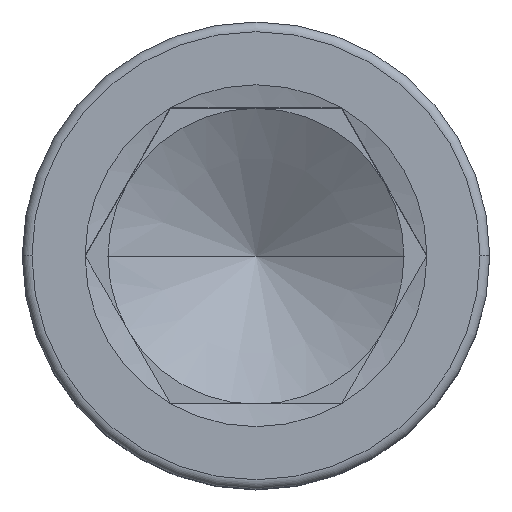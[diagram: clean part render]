
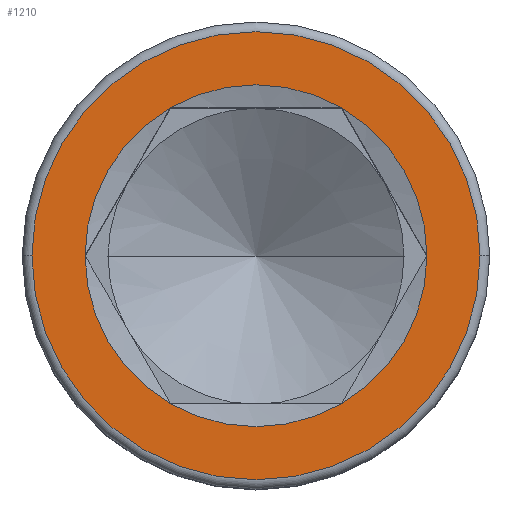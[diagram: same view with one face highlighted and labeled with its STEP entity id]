
A CAD part, top view. The second image highlights one B-rep face of the part: STEP entity #1210.
In plain terms, the highlighted planar face has unit normal (0, 0, 1).
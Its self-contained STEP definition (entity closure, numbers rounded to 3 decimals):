
#41 = CARTESIAN_POINT ( 'NONE',  ( 0., 0., 20. ) ) ;
#48 = VERTEX_POINT ( 'NONE', #963 ) ;
#53 = DIRECTION ( 'NONE',  ( 1., 0., 0. ) ) ;
#78 = VERTEX_POINT ( 'NONE', #800 ) ;
#87 = VERTEX_POINT ( 'NONE', #471 ) ;
#110 = CARTESIAN_POINT ( 'NONE',  ( 0., 0., 20. ) ) ;
#120 = AXIS2_PLACEMENT_3D ( 'NONE', #937, #773, #306 ) ;
#129 = DIRECTION ( 'NONE',  ( 1., 0., 0. ) ) ;
#165 = EDGE_CURVE ( 'NONE', #87, #477, #434, .T. ) ;
#167 = CARTESIAN_POINT ( 'NONE',  ( -14.38, 0., 20. ) ) ;
#261 = ORIENTED_EDGE ( 'NONE', *, *, #748, .F. ) ;
#306 = DIRECTION ( 'NONE',  ( 1., 0., 0. ) ) ;
#314 = ORIENTED_EDGE ( 'NONE', *, *, #1593, .F. ) ;
#336 = ORIENTED_EDGE ( 'NONE', *, *, #165, .F. ) ;
#343 = EDGE_CURVE ( 'NONE', #1311, #78, #1217, .T. ) ;
#355 = DIRECTION ( 'NONE',  ( 1., 0., 0. ) ) ;
#388 = CIRCLE ( 'NONE', #1515, 14.38 ) ;
#434 = CIRCLE ( 'NONE', #731, 10.97 ) ;
#444 = AXIS2_PLACEMENT_3D ( 'NONE', #1072, #927, #459 ) ;
#459 = DIRECTION ( 'NONE',  ( 1., 0., 0. ) ) ;
#471 = CARTESIAN_POINT ( 'NONE',  ( -10.97, 0., 20. ) ) ;
#477 = VERTEX_POINT ( 'NONE', #1372 ) ;
#489 = EDGE_LOOP ( 'NONE', ( #1074, #314, #261, #336, #943, #907 ) ) ;
#508 = CARTESIAN_POINT ( 'NONE',  ( 0., 0., 20. ) ) ;
#528 = DIRECTION ( 'NONE',  ( 0., 0., 1. ) ) ;
#558 = ORIENTED_EDGE ( 'NONE', *, *, #1272, .T. ) ;
#581 = CIRCLE ( 'NONE', #741, 10.97 ) ;
#639 = CIRCLE ( 'NONE', #120, 10.97 ) ;
#699 = CARTESIAN_POINT ( 'NONE',  ( 0., 0., 20. ) ) ;
#731 = AXIS2_PLACEMENT_3D ( 'NONE', #508, #1132, #1026 ) ;
#741 = AXIS2_PLACEMENT_3D ( 'NONE', #1634, #1439, #53 ) ;
#748 = EDGE_CURVE ( 'NONE', #477, #966, #1251, .T. ) ;
#772 = CARTESIAN_POINT ( 'NONE',  ( -5.485, 9.5, 20. ) ) ;
#773 = DIRECTION ( 'NONE',  ( 0., 0., 1. ) ) ;
#800 = CARTESIAN_POINT ( 'NONE',  ( 14.38, 0., 20. ) ) ;
#840 = CARTESIAN_POINT ( 'NONE',  ( 10.97, 0., 20. ) ) ;
#907 = ORIENTED_EDGE ( 'NONE', *, *, #1463, .F. ) ;
#921 = DIRECTION ( 'NONE',  ( 0., 0., 1. ) ) ;
#924 = AXIS2_PLACEMENT_3D ( 'NONE', #1241, #1401, #1854 ) ;
#927 = DIRECTION ( 'NONE',  ( 0., 0., 1. ) ) ;
#937 = CARTESIAN_POINT ( 'NONE',  ( 0., 0., 20. ) ) ;
#943 = ORIENTED_EDGE ( 'NONE', *, *, #1887, .F. ) ;
#960 = AXIS2_PLACEMENT_3D ( 'NONE', #699, #528, #1148 ) ;
#963 = CARTESIAN_POINT ( 'NONE',  ( 5.485, 9.5, 20. ) ) ;
#966 = VERTEX_POINT ( 'NONE', #1399 ) ;
#1026 = DIRECTION ( 'NONE',  ( 1., 0., 0. ) ) ;
#1072 = CARTESIAN_POINT ( 'NONE',  ( 0., 0., 20. ) ) ;
#1074 = ORIENTED_EDGE ( 'NONE', *, *, #1866, .F. ) ;
#1084 = EDGE_LOOP ( 'NONE', ( #558, #1889 ) ) ;
#1088 = AXIS2_PLACEMENT_3D ( 'NONE', #110, #1679, #129 ) ;
#1125 = DIRECTION ( 'NONE',  ( 0., 0., 1. ) ) ;
#1132 = DIRECTION ( 'NONE',  ( 0., 0., 1. ) ) ;
#1148 = DIRECTION ( 'NONE',  ( 1., 0., 0. ) ) ;
#1210 = ADVANCED_FACE ( 'NONE', ( #1741, #1891 ), #1427, .T. ) ;
#1217 = CIRCLE ( 'NONE', #1088, 14.38 ) ;
#1241 = CARTESIAN_POINT ( 'NONE',  ( 0., 0., 20. ) ) ;
#1251 = CIRCLE ( 'NONE', #960, 10.97 ) ;
#1255 = CIRCLE ( 'NONE', #924, 10.97 ) ;
#1272 = EDGE_CURVE ( 'NONE', #78, #1311, #388, .T. ) ;
#1291 = VERTEX_POINT ( 'NONE', #772 ) ;
#1311 = VERTEX_POINT ( 'NONE', #167 ) ;
#1324 = CIRCLE ( 'NONE', #444, 10.97 ) ;
#1372 = CARTESIAN_POINT ( 'NONE',  ( -5.485, -9.5, 20. ) ) ;
#1399 = CARTESIAN_POINT ( 'NONE',  ( 5.485, -9.5, 20. ) ) ;
#1401 = DIRECTION ( 'NONE',  ( 0., 0., 1. ) ) ;
#1427 = PLANE ( 'NONE',  #1580 ) ;
#1439 = DIRECTION ( 'NONE',  ( 0., 0., 1. ) ) ;
#1463 = EDGE_CURVE ( 'NONE', #48, #1291, #1324, .T. ) ;
#1515 = AXIS2_PLACEMENT_3D ( 'NONE', #1691, #921, #1543 ) ;
#1543 = DIRECTION ( 'NONE',  ( 1., 0., 0. ) ) ;
#1580 = AXIS2_PLACEMENT_3D ( 'NONE', #41, #1125, #355 ) ;
#1593 = EDGE_CURVE ( 'NONE', #966, #1989, #581, .T. ) ;
#1634 = CARTESIAN_POINT ( 'NONE',  ( 0., 0., 20. ) ) ;
#1679 = DIRECTION ( 'NONE',  ( 0., 0., 1. ) ) ;
#1691 = CARTESIAN_POINT ( 'NONE',  ( 0., 0., 20. ) ) ;
#1741 = FACE_OUTER_BOUND ( 'NONE', #1084, .T. ) ;
#1854 = DIRECTION ( 'NONE',  ( 1., 0., 0. ) ) ;
#1866 = EDGE_CURVE ( 'NONE', #1989, #48, #639, .T. ) ;
#1887 = EDGE_CURVE ( 'NONE', #1291, #87, #1255, .T. ) ;
#1889 = ORIENTED_EDGE ( 'NONE', *, *, #343, .T. ) ;
#1891 = FACE_BOUND ( 'NONE', #489, .T. ) ;
#1989 = VERTEX_POINT ( 'NONE', #840 ) ;
